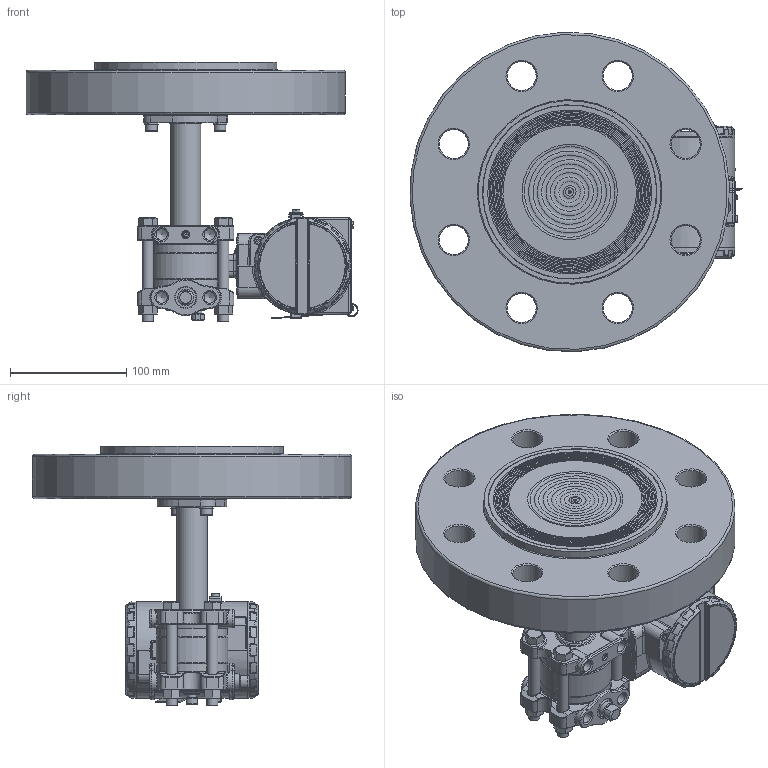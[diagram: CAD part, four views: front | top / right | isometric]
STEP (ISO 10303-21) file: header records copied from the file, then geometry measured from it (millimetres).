
FILE_DESCRIPTION(/* description */ (''),/* implementation_level */ '2;1');
FILE_NAME(/* name */ 'F:\Area\Desenvolvimento_2\Projects\Sensor\projetos\LD30X\montagens 3d - clientes\SELO NIVEL\LD30XL 4-600 RF ref 1-4NPT purga acima.stp',/* time_stamp */ '2023-02-15T10:02:08-03:00',/* author */ ('inventor02'),/* organization */ (''),/* preprocessor_version */ 'ST-DEVELOPER v17',/* originating_system */ 'Autodesk Inventor 2019',/* authorisation */ '');
FILE_SCHEMA (('CONFIG_CONTROL_DESIGN'));
Products named in the file (38): LD30XL 4-600 RF ref 1-4NPT purga acima; 204-0301-L-4 600 RF purga acima; nivel fx3 com baixa diferencial 1-4NPT purga acima; involucro fx0-3 apos a usinagem final; flange diferencial std purga; 101-C-7484-01 flange selo nivel VR; 201-A-0504-tubo união teste 1; bujao 1-4NPT; Sangria; Porca 3-8 x 16 UNC; Paraf. 3-8 x 16 UNC; adaptação tubo x flanges 1-1-2 a 4pol; 101-B-0161-anel cortado do tubo - teste1; 101-B-0162-flange fixação tubo; ANSI B18.3.1M - M6x1 x 16; DIN 127 - A 6; 101-C-0130-10; carcaça vazia com tampas e plaqueta; carcaça LD inox sem letras; Subconjunto plaqueta 300; Plaqueta transmissor; Parafuso da Plaqueta; Rebite da Plaqueta; 096-A-0169-03; 101-A-0502-01; Chapa aterramento externo; ISO 1207 - M4 x 8; DIN 915 - M6 x 10; ANSI B18.3.1M - M4x0,7 x 8; Subconjunto tampa com visor aluminio; tampa pintada; VIDRO DO VISOR; oring 41x1 vidro tampa; Trava do vidro da tampa com visor; trava do vidro VH256; Subconjunto tampa sem visor-aluminio; tampa cega 300 pintada p0; 00034775-0
Assembly tree (48 placements, depth 4):
  LD30XL 4-600 RF ref 1-4NPT purga acima
    204-0301-L-4 600 RF purga acima
      nivel fx3 com baixa diferencial 1-4NPT purga acima
        involucro fx0-3 apos a usinagem final
        flange diferencial std purga
        101-C-7484-01 flange selo nivel VR
        201-A-0504-tubo união teste 1
        DIN 915 - M6 x 10
        bujao 1-4NPT
        Sangria
        Porca 3-8 x 16 UNC  x4
        Paraf. 3-8 x 16 UNC  x4
      adaptação tubo x flanges 1-1-2 a 4pol
        101-B-0161-anel cortado do tubo - teste1
        101-B-0162-flange fixação tubo
        ANSI B18.3.1M - M6x1 x 16  x2
        DIN 127 - A 6  x2
      101-C-0130-10
    carcaça vazia com tampas e plaqueta
      carcaça LD inox sem letras
      Subconjunto plaqueta 300
        Plaqueta transmissor
        Parafuso da Plaqueta
        Rebite da Plaqueta
        096-A-0169-03
        101-A-0502-01
      Chapa aterramento externo
      ISO 1207 - M4 x 8
      DIN 915 - M6 x 10
      ANSI B18.3.1M - M4x0,7 x 8  x2
      Subconjunto tampa com visor aluminio
        tampa pintada
        VIDRO DO VISOR
        oring 41x1 vidro tampa
        Trava do vidro da tampa com visor
        trava do vidro VH256
        00034775-0
      Subconjunto tampa sem visor-aluminio
        tampa cega 300 pintada p0
        00034775-0
Bounding box: 285.66 x 274.74 x 223.4 mm (x, y, z)
Volume: 2842210.1 mm3; surface area: 426496.5 mm2
Topology: 41 solids, 41 shells, 2694 faces, 6460 edges, 3808 vertices
Faces by surface type: bspline 666, cylinder 652, plane 546, torus 454, cone 250, sphere 126
Full cylindrical faces by diameter (mm): 2 x4, 2.1 x2, 2.459 x5, 2.5 x1, 2.642 x1, 2.7 x1, 2.8 x1, 3 x4, 3.242 x4, 3.5 x5, 3.571 x1, 4 x5, 4.3 x1, 4.4 x1, 4.917 x4, 5 x1, 5.5 x3, 6 x6, 6.647 x1, 7 x7, 7.087 x2, 7.6 x2, 7.798 x4, 8 x1, 8.7 x2, 9.525 x4, 9.728 x6, 10 x2, 10.5 x8, 10.719 x2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
Entity records: 93154 total; most frequent: CARTESIAN_POINT 34405, ORIENTED_EDGE 12100, DIRECTION 12077, EDGE_CURVE 6050, AXIS2_PLACEMENT_3D 5318, VERTEX_POINT 3614, CIRCLE 3140, EDGE_LOOP 2728
